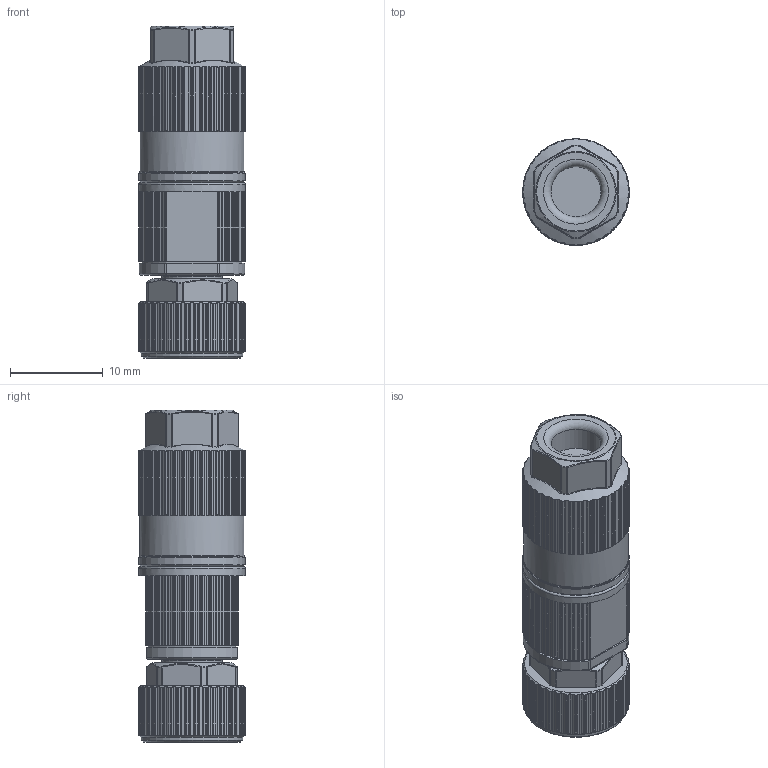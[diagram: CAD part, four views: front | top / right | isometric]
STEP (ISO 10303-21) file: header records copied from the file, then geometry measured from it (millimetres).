
FILE_DESCRIPTION(/* description */ (''),/* implementation_level */ '2;1');
FILE_NAME(/* name */ 'M8-3-孔.stp',/* time_stamp */ '2024-12-05T19:00:28+08:00',/* author */ (''),/* organization */ (''),/* preprocessor_version */ 'ST-DEVELOPER v18.101',/* originating_system */ 'SIEMENS PLM Software NX 2007',/* authorisation */ '');
FILE_SCHEMA (('FEATURE_BASED_PROCESS_PLANNING','TECHNICAL_DATA_PACKAGING','PROCESS_PLANNING_SCHEMA','AP242_MANAGED_MODEL_BASED_3D_ENGINEERING_MIM_LF { 1 0 10303 442 1 1 4 }'));
Length unit declared in the file: millimetre
Products named in the file (1): IDC-M8-3孔
Bounding box: 11.5 x 11.5 x 35.85 mm (x, y, z)
Volume: 3132.3 mm3; surface area: 2491.9 mm2
Topology: 7 solids, 7 shells, 874 faces, 2447 edges, 1599 vertices
Faces by surface type: cylinder 594, bspline 114, plane 86, cone 45, torus 28, extrusion 6, revolution 1
Full cylindrical faces by diameter (mm): 1.06 x3, 1.55 x3, 5.4 x1, 5.7 x1, 6.5 x1, 6.7 x1, 7.1 x6, 11 x1, 11.3 x1, 11.5 x2
Entity records: 34970 total; most frequent: CARTESIAN_POINT 14219, ORIENTED_EDGE 4752, DIRECTION 3821, EDGE_CURVE 2376, VERTEX_POINT 1571, AXIS2_PLACEMENT_3D 1561, EDGE_LOOP 920, ADVANCED_FACE 869
